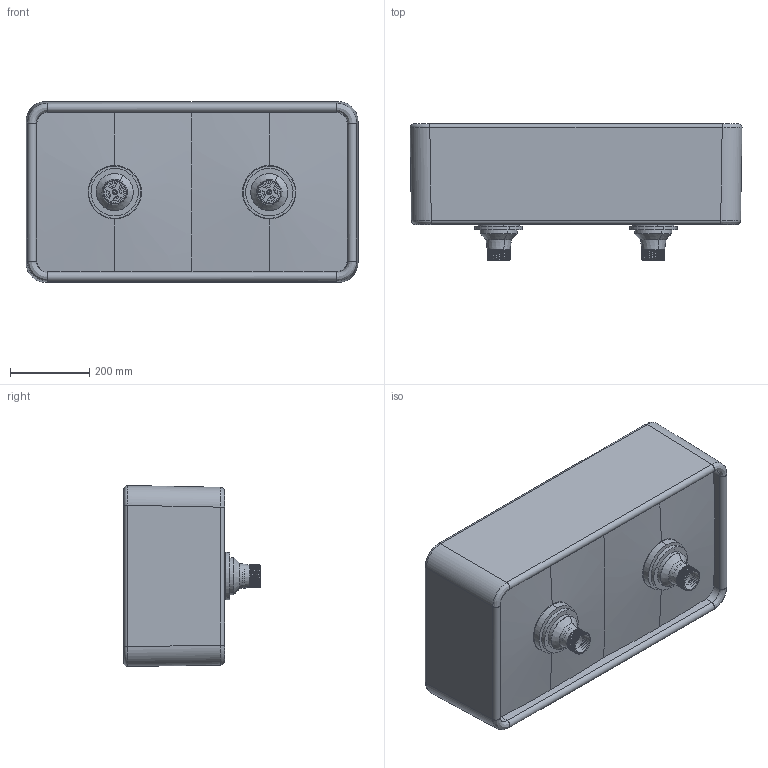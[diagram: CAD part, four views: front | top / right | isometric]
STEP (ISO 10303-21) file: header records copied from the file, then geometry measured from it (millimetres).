
FILE_DESCRIPTION (( 'STEP AP214' ), '1' );
FILE_NAME ('BEN-924-WITH-WASTE.STEP', '2020-10-12T10:43:48', ( '' ), ( '' ), 'SwSTEP 2.0', 'SolidWorks 2020', '' );
FILE_SCHEMA (( 'AUTOMOTIVE_DESIGN' ));
Length unit declared in the file: millimetre
Products named in the file (1): BEN-924-WITH-WASTE
Bounding box: 837.7 x 343.55 x 456.66 mm (x, y, z)
Volume: 21244586.4 mm3; surface area: 2290554.1 mm2
Topology: 13 solids, 13 shells, 815 faces, 2169 edges, 1390 vertices
Faces by surface type: cylinder 462, plane 199, cone 54, bspline 48, torus 44, sphere 8
Entity records: 55294 total; most frequent: CARTESIAN_POINT 27689, ORIENTED_EDGE 4330, DIRECTION 3202, EDGE_CURVE 2165, VERTEX_POINT 1390, AXIS2_PLACEMENT_3D 1222, EDGE_LOOP 985, UNCERTAINTY_MEASURE_WITH_UNIT 830
